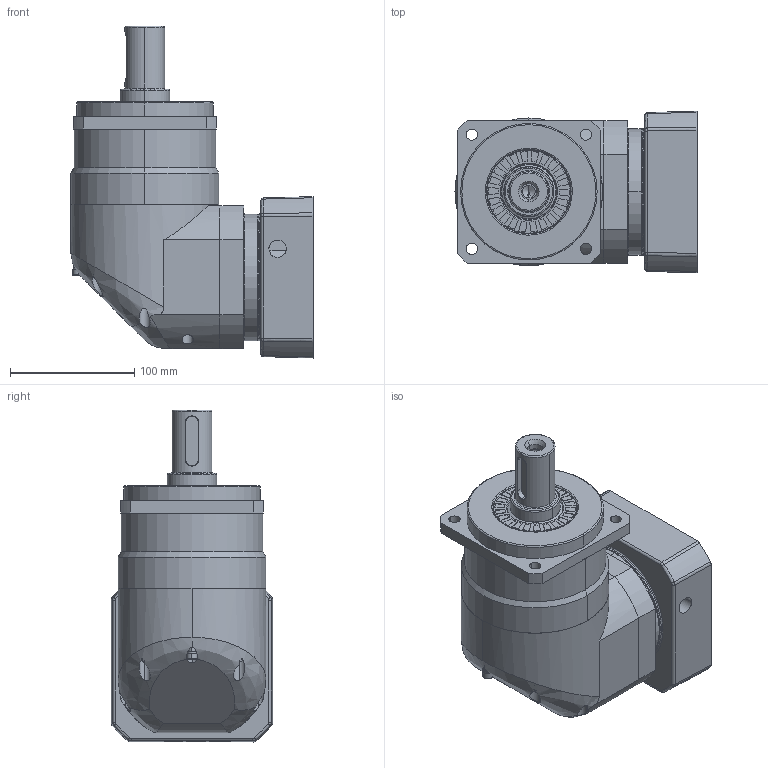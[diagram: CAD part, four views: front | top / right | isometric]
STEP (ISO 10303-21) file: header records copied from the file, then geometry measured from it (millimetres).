
FILE_DESCRIPTION (( 'STEP AP214' ), '1' );
FILE_NAME ('EVB115-L1-S2-P2 24-110-145-M8.STEP', '2021-04-24T03:46:22', ( 'User' ), ( 'china' ), 'SwSTEP 2.0', 'SolidWorks 2016', '' );
FILE_SCHEMA (( 'AUTOMOTIVE_DESIGN' ));
Length unit declared in the file: millimetre
Products named in the file (11): M5-12樓粟菜; M6-14樓粟菜; 蚐猾40x68x8; 怀堤俴陎殤EVB115D; 镂空输入法兰-110X44.5XM8; 输入端壳体EVB115D; 输出内齿圈壳体EVB115D; 珨撰眻褒眊极EVB115D; EVB115-L1-S2-P2 24-110-145-M8; 输入锁紧环26X63.5X16; 输入太阳齿轮EVB115D-22
Assembly tree (27 placements, depth 2):
  EVB115-L1-S2-P2 24-110-145-M8
    珨撰眻褒眊极EVB115D
    输出内齿圈壳体EVB115D
    输入端壳体EVB115D
    镂空输入法兰-110X44.5XM8
    怀堤俴陎殤EVB115D
    蚐猾40x68x8
    M6-14樓粟菜  x12
    M5-12樓粟菜  x7
    输入太阳齿轮EVB115D-22
    输入锁紧环26X63.5X16
Bounding box: 195 x 130 x 267.5 mm (x, y, z)
Volume: 2715939.5 mm3; surface area: 327202.2 mm2
Topology: 8 solids, 47 shells, 1857 faces, 4566 edges, 2829 vertices
Faces by surface type: plane 682, bspline 516, cylinder 384, cone 204, torus 71
Entity records: 79507 total; most frequent: CARTESIAN_POINT 33311, ORIENTED_EDGE 6854, DIRECTION 5209, EDGE_CURVE 3434, VERTEX_POINT 2136, AXIS2_PLACEMENT_3D 1882, EDGE_LOOP 1588, UNCERTAINTY_MEASURE_WITH_UNIT 1456
